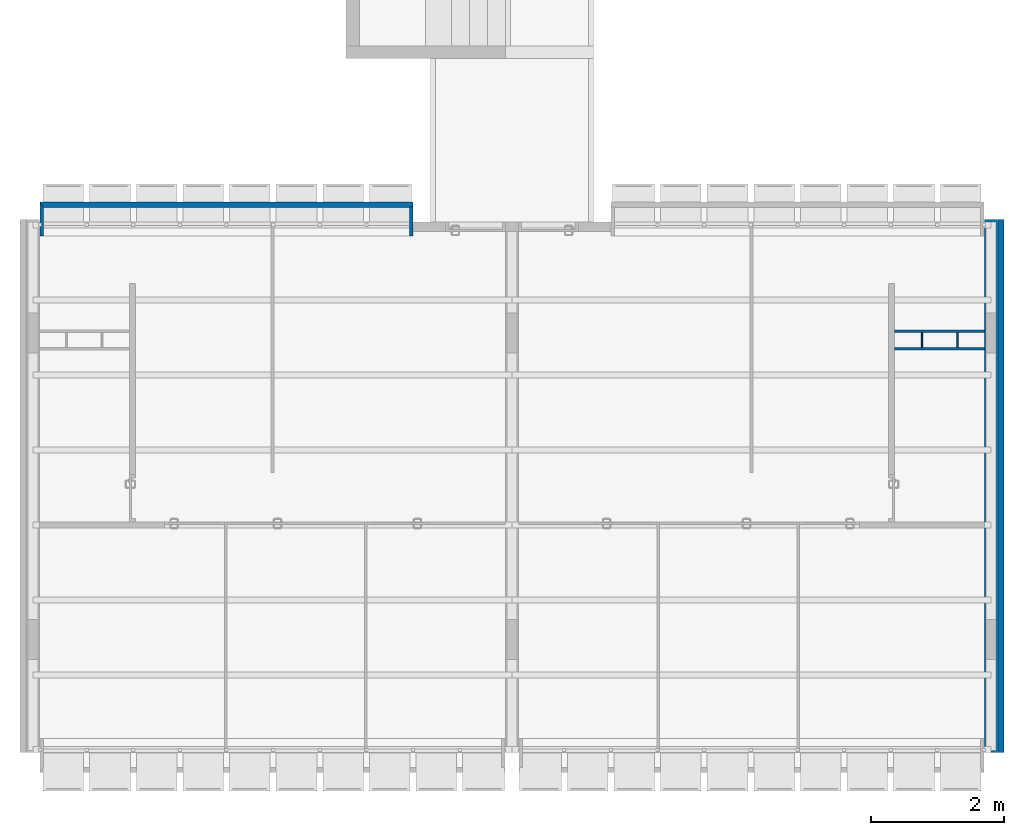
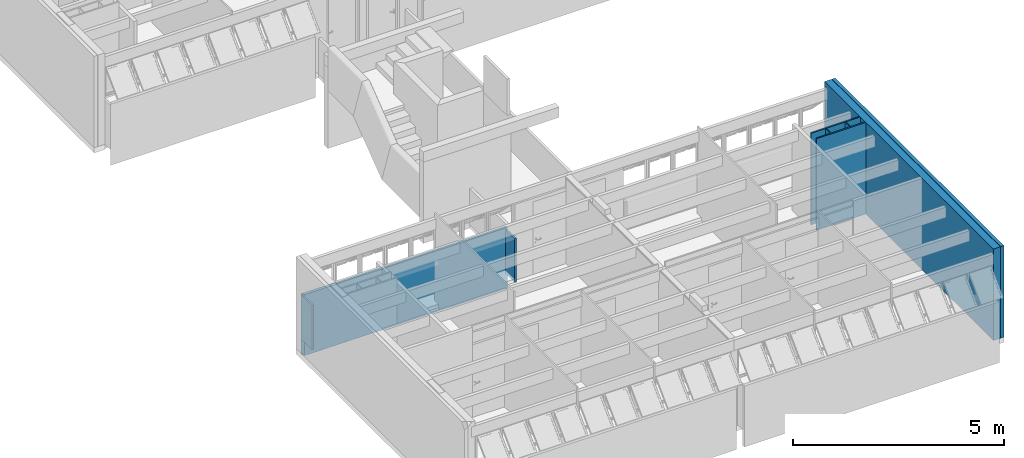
# One storey, part 26 of 41: 9 walls.
"""IFC4 building model written with IfcOpenShell, lengths in millimetres."""

from ifc_helpers import new_model, entity, si_unit, converted_unit, derived_unit, direction, frame, origin_with_axes, place, context, subcontext, project, spatial, line, indexed_curve, outline, extrude, material, layer, layer_set, layer_usage, type_object, element, save


model = new_model("IFC4")

# Units and contexts
model_context = context("Model", 3, precision=0.01, world=origin_with_axes(), true_north=direction((0.0, 1.0)))
body_context = subcontext(model_context, "Body", "Model", "MODEL_VIEW")
ifc_project = project(units=[si_unit("LENGTHUNIT", "METRE", prefix="MILLI"), si_unit("AREAUNIT", "SQUARE_METRE"), si_unit("VOLUMEUNIT", "CUBIC_METRE"), converted_unit("PLANEANGLEUNIT", "DEGREE", entity("IfcPlaneAngleMeasure", 0.0174532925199), si_unit("PLANEANGLEUNIT", "RADIAN"), dimensions=[0, 0, 0, 0, 0, 0, 0]), converted_unit("TIMEUNIT", "Year", entity("IfcTimeMeasure", 31556926.0), si_unit("TIMEUNIT", "SECOND"), dimensions=[0, 0, 1, 0, 0, 0, 0]), si_unit("MASSUNIT", "GRAM", prefix="KILO"), si_unit("THERMODYNAMICTEMPERATUREUNIT", "DEGREE_CELSIUS"), si_unit("LUMINOUSINTENSITYUNIT", "LUMEN"), si_unit("ENERGYUNIT", "JOULE", prefix="MEGA"), derived_unit("THERMALCONDUCTANCEUNIT", [(si_unit("POWERUNIT", "WATT"), 1), (si_unit("LENGTHUNIT", "METRE"), -1), (si_unit("THERMODYNAMICTEMPERATUREUNIT", "KELVIN"), -1)]), derived_unit("SPECIFICHEATCAPACITYUNIT", [(si_unit("ENERGYUNIT", "JOULE"), 1), (si_unit("MASSUNIT", "GRAM", prefix="KILO"), -1), (si_unit("THERMODYNAMICTEMPERATUREUNIT", "KELVIN"), -1)]), derived_unit("MASSDENSITYUNIT", [(si_unit("MASSUNIT", "GRAM", prefix="KILO"), 1), (si_unit("VOLUMEUNIT", "CUBIC_METRE"), -1)])], contexts=[model_context])

# Site, building, storey
site_placement = place(None, origin_with_axes())
site = spatial("IfcSite", under=ifc_project, at=site_placement, Name="Local", CompositionType="ELEMENT")
building_placement = place(site_placement, origin_with_axes())
building = spatial("IfcBuilding", under=site, at=building_placement, Name="Construção", CompositionType="ELEMENT")
storey_placement = place(building_placement, frame((0.0, 0.0, 2650.0), z_axis=(0.0, 0.0, 1.0), x_axis=(1.0, 0.0, 0.0)))
storey = spatial("IfcBuildingStorey", under=building, at=storey_placement, Name="Segundo Pavimento", CompositionType="ELEMENT", Elevation=2650.0)

# Walls
ifc_material_1 = material(Name="GENÉRICO - VEDAÇÃO EXTERNA")
ifc_layer_1 = layer(ifc_material_1, 190.0, ventilated="UNKNOWN", Name="GENÉRICO - VEDAÇÃO EXTERNA")
ifc_layer_set_1 = layer_set([ifc_layer_1], Name="GENÉRICO - VEDAÇÃO EXTERNA 190")
ifc_layer_usage_1 = layer_usage(ifc_layer_set_1, "AXIS2", "POSITIVE", 0.0)
wall_type_1 = type_object("IfcWallType", Name="GENÉRICO - VEDAÇÃO EXTERNA 190", PredefinedType="NOTDEFINED")
wall_1_placement = place(storey_placement, frame((14480.0, 8300.0, 0.0), z_axis=(0.0, 0.0, 1.0), x_axis=(0.0, -1.0, 0.0)))
element("IfcWall", 1, at=wall_1_placement, inside=storey, type_object=wall_type_1, material=ifc_layer_usage_1, Name="APTO6-PAREDE-013", PredefinedType="NOTDEFINED", context=body_context, shape_type="SweptSolid", body=[
    extrude(outline(indexed_curve([(0.0, 0.0), (8000.0, 0.0), (8000.0, 190.0), (0.0, 190.0)], segments=[line(1, 2, 3, 4, 1)])), origin_with_axes(), (0.0, 0.0, 1.0), 2650.0),
])
ifc_layer_2 = layer(ifc_material_1, 40.0, ventilated="UNKNOWN", Name="GENÉRICO - VEDAÇÃO EXTERNA")
ifc_layer_set_2 = layer_set([ifc_layer_2], Name="GENÉRICO - VEDAÇÃO EXTERNA 40")
ifc_layer_usage_2 = layer_usage(ifc_layer_set_2, "AXIS2", "POSITIVE", -40.0)
wall_type_2 = type_object("IfcWallType", Name="GENÉRICO - VEDAÇÃO EXTERNA 40", PredefinedType="NOTDEFINED")
wall_2_placement = place(storey_placement, frame((14480.0, 6345.0, 0.0), z_axis=(0.0, 0.0, 1.0), x_axis=(-1.0, 0.0, 0.0)))
element("IfcWall", 2, at=wall_2_placement, inside=storey, type_object=wall_type_2, material=ifc_layer_usage_2, Name="APTO6-PAREDE-011", PredefinedType="NOTDEFINED", context=body_context, shape_type="SweptSolid", body=[
    extrude(outline(indexed_curve([(0.0, -40.0), (1350.0, -40.0), (1350.0, 0.0), (0.0, 0.0)], segments=[line(1, 2, 3, 4, 1)])), origin_with_axes(), (0.0, 0.0, 1.0), 2650.0),
])
ifc_layer_usage_3 = layer_usage(ifc_layer_set_2, "AXIS2", "POSITIVE", -40.0)
wall_3_placement = place(storey_placement, frame((13040.0, 6645.0, 0.0), z_axis=(0.0, 0.0, 1.0), x_axis=(1.0, 0.0, 0.0)))
element("IfcWall", 3, at=wall_3_placement, inside=storey, type_object=wall_type_2, material=ifc_layer_usage_3, Name="APTO6-PAREDE-010", PredefinedType="NOTDEFINED", context=body_context, shape_type="SweptSolid", body=[
    extrude(outline(indexed_curve([(90.0, -40.0), (1440.0, -40.0), (1440.0, 0.0), (90.0, 0.0)], segments=[line(1, 2, 3, 4, 1)])), origin_with_axes(), (0.0, 0.0, 1.0), 2650.0),
])
ifc_layer_3 = layer(ifc_material_1, 90.0, ventilated="UNKNOWN", Name="GENÉRICO - VEDAÇÃO EXTERNA")
ifc_layer_set_3 = layer_set([ifc_layer_3], Name="GENÉRICO - VEDAÇÃO EXTERNA 90")
ifc_layer_usage_4 = layer_usage(ifc_layer_set_3, "AXIS2", "POSITIVE", 0.0)
wall_type_3 = type_object("IfcWallType", Name="GENÉRICO - VEDAÇÃO EXTERNA 90", PredefinedType="NOTDEFINED")
wall_4_placement = place(storey_placement, frame((14680.0, 8300.0, 0.0), z_axis=(0.0, 0.0, 1.0), x_axis=(0.0, -1.0, 0.0)))
element("IfcWall", 4, at=wall_4_placement, inside=storey, type_object=wall_type_3, material=ifc_layer_usage_4, Name="APTO6-PAREDE-014", PredefinedType="NOTDEFINED", context=body_context, shape_type="SweptSolid", body=[
    extrude(outline(indexed_curve([(0.0, 0.0), (8000.0, 0.0), (8000.0, 90.0), (0.0, 90.0)], segments=[line(1, 2, 3, 4, 1)])), origin_with_axes(), (0.0, 0.0, 1.0), 2650.0),
])
ifc_material_2 = material(Name="Concreto Armado Moldado in Loco - Estrutural")
ifc_layer_4 = layer(ifc_material_2, 50.0, ventilated="UNKNOWN", Name="Concreto Armado Moldado in Loco - Estrutural")
ifc_layer_set_4 = layer_set([ifc_layer_4], Name="Concreto Armado Moldado in Loco - Estrutural 50")
ifc_layer_usage_5 = layer_usage(ifc_layer_set_4, "AXIS2", "POSITIVE", -50.0)
wall_type_4 = type_object("IfcWallType", Name="Concreto Armado Moldado in Loco - Estrutural 50", PredefinedType="NOTDEFINED")
wall_5_placement = place(storey_placement, frame((5850.0, 8054.99999866, 0.0), z_axis=(0.0, 0.0, 1.0), x_axis=(0.0, 1.0, 0.0)))
element("IfcWall", 5, at=wall_5_placement, inside=storey, type_object=wall_type_4, material=ifc_layer_usage_5, Name="APTO5-PAREDE-016", PredefinedType="NOTDEFINED", context=body_context, shape_type="SweptSolid", body=[
    extrude(outline(indexed_curve([(0.0, -50.0), (435.0, -50.0), (435.0, 0.0), (0.0, 0.0)], segments=[line(1, 2, 3, 4, 1)])), origin_with_axes(), (0.0, 0.0, 1.0), 1270.0),
])
ifc_layer_usage_6 = layer_usage(ifc_layer_set_4, "AXIS2", "POSITIVE", -50.0)
wall_6_placement = place(storey_placement, frame((300.0, 8054.99999866, 0.0), z_axis=(0.0, 0.0, 1.0), x_axis=(0.0, 1.0, 0.0)))
element("IfcWall", 6, at=wall_6_placement, inside=storey, type_object=wall_type_4, material=ifc_layer_usage_6, Name="APTO5-PAREDE-018", PredefinedType="NOTDEFINED", context=body_context, shape_type="SweptSolid", body=[
    extrude(outline(indexed_curve([(0.0, -50.0), (430.0, -50.0), (510.0, 0.0), (0.0, 0.0)], segments=[line(1, 2, 3, 4, 1)])), origin_with_axes(), (0.0, 0.0, 1.0), 1270.0),
])
ifc_layer_5 = layer(ifc_material_1, 20.0, ventilated="UNKNOWN", Name="GENÉRICO - VEDAÇÃO EXTERNA")
ifc_layer_set_5 = layer_set([ifc_layer_5], Name="GENÉRICO - VEDAÇÃO EXTERNA 20")
ifc_layer_usage_7 = layer_usage(ifc_layer_set_5, "AXIS2", "POSITIVE", -20.0)
wall_type_5 = type_object("IfcWallType", Name="GENÉRICO - VEDAÇÃO EXTERNA 20", PredefinedType="NOTDEFINED")
wall_7_placement = place(storey_placement, frame((14060.0, 6345.0, 0.0), z_axis=(0.0, 0.0, 1.0), x_axis=(0.0, 1.0, 0.0)))
element("IfcWall", 7, at=wall_7_placement, inside=storey, type_object=wall_type_5, material=ifc_layer_usage_7, Name="APTO6-PAREDE-009", PredefinedType="NOTDEFINED", context=body_context, shape_type="SweptSolid", body=[
    extrude(outline(indexed_curve([(40.0, -20.0), (260.0, -20.0), (260.0, 0.0), (40.0, 0.0)], segments=[line(1, 2, 3, 4, 1)])), origin_with_axes(), (0.0, 0.0, 1.0), 2650.0),
])
ifc_layer_usage_8 = layer_usage(ifc_layer_set_5, "AXIS2", "POSITIVE", 0.0)
wall_8_placement = place(storey_placement, frame((13530.0, 6645.0, 0.0), z_axis=(0.0, 0.0, 1.0), x_axis=(0.0, -1.0, 0.0)))
element("IfcWall", 8, at=wall_8_placement, inside=storey, type_object=wall_type_5, material=ifc_layer_usage_8, Name="APTO6-PAREDE-008", PredefinedType="NOTDEFINED", context=body_context, shape_type="SweptSolid", body=[
    extrude(outline(indexed_curve([(40.0, 0.0), (260.0, 0.0), (260.0, 20.0), (40.0, 20.0)], segments=[line(1, 2, 3, 4, 1)])), origin_with_axes(), (0.0, 0.0, 1.0), 2650.0),
])
ifc_layer_6 = layer(ifc_material_2, 80.0, ventilated="UNKNOWN", Name="Concreto Armado Moldado in Loco - Estrutural")
ifc_layer_set_6 = layer_set([ifc_layer_6], Name="Concreto Armado Moldado in Loco - Estrutural 80")
ifc_layer_usage_9 = layer_usage(ifc_layer_set_6, "AXIS2", "NEGATIVE", 80.0)
wall_type_6 = type_object("IfcWallType", Name="Concreto Armado Moldado in Loco - Estrutural 80", PredefinedType="NOTDEFINED")
wall_9_placement = place(storey_placement, frame((300.0, 8484.99999866, -450.0), z_axis=(0.0, 0.0, 1.0), x_axis=(1.0, 0.0, 0.0)))
element("IfcWall", 9, at=wall_9_placement, inside=storey, type_object=wall_type_6, material=ifc_layer_usage_9, Name="APTO5-PAREDE-017", PredefinedType="NOTDEFINED", context=body_context, shape_type="SweptSolid", body=[
    extrude(outline(indexed_curve([(50.0, 0.0), (5600.0, 0.0), (5600.0, 80.0), (0.0, 80.0)], segments=[line(1, 2, 3, 4, 1)])), origin_with_axes(), (0.0, 0.0, 1.0), 1765.0),
])

save(model, "model.ifc")
